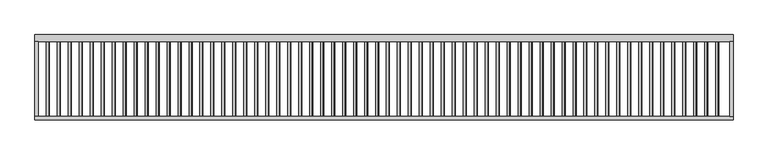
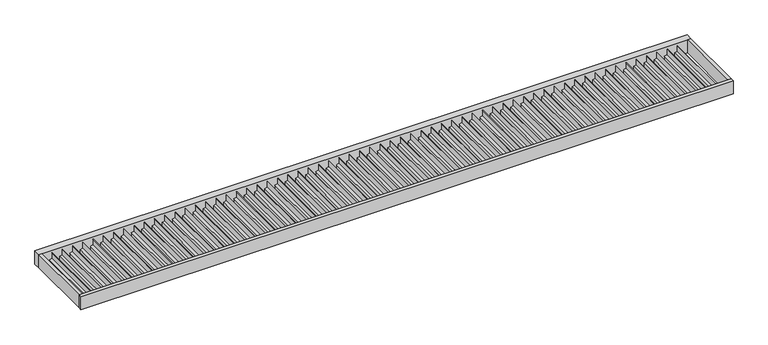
"""IFC4 building model written with IfcOpenShell, lengths in millimetres: proxy geometry, Renson_Amani_Canopy : Renson_Amani_Canopy."""

from ifc_helpers import new_model, si_unit, frame, origin, place, context, project, spatial, polyline, outline, extrude, source, transform, mapped, element, save


def generic_models_a3065196(model_context):
    return source(origin(), model_context, "Body", "SweptSolid", [
        extrude(outline(polyline([(-99.0, 6825.0), (-150.0, 6825.0), (-150.0, 6855.0), (-27.0, 6855.0), (-27.0, 6853.0), (-92.0, 6853.0), (-99.0, 6825.0)])), frame((0.0, -820.0, 0.0), z_axis=(0.0, 1.0, 0.0), x_axis=(0.0, 0.0, 1.0)), (0.0, 0.0, 1.0), 750.0),
        extrude(outline(polyline([(-99.0, 6715.0), (-150.0, 6715.0), (-150.0, 6745.0), (-27.0, 6745.0), (-27.0, 6743.0), (-92.0, 6743.0), (-99.0, 6715.0)])), frame((0.0, -820.0, 0.0), z_axis=(0.0, 1.0, 0.0), x_axis=(0.0, 0.0, 1.0)), (0.0, 0.0, 1.0), 750.0),
        extrude(outline(polyline([(-99.0, 6605.0), (-150.0, 6605.0), (-150.0, 6635.0), (-27.0, 6635.0), (-27.0, 6633.0), (-92.0, 6633.0), (-99.0, 6605.0)])), frame((0.0, -820.0, 0.0), z_axis=(0.0, 1.0, 0.0), x_axis=(0.0, 0.0, 1.0)), (0.0, 0.0, 1.0), 750.0),
        extrude(outline(polyline([(-99.0, 6495.0), (-150.0, 6495.0), (-150.0, 6525.0), (-27.0, 6525.0), (-27.0, 6523.0), (-92.0, 6523.0), (-99.0, 6495.0)])), frame((0.0, -820.0, 0.0), z_axis=(0.0, 1.0, 0.0), x_axis=(0.0, 0.0, 1.0)), (0.0, 0.0, 1.0), 750.0),
        extrude(outline(polyline([(-99.0, 6385.0), (-150.0, 6385.0), (-150.0, 6415.0), (-27.0, 6415.0), (-27.0, 6413.0), (-92.0, 6413.0), (-99.0, 6385.0)])), frame((0.0, -820.0, 0.0), z_axis=(0.0, 1.0, 0.0), x_axis=(0.0, 0.0, 1.0)), (0.0, 0.0, 1.0), 750.0),
        extrude(outline(polyline([(-99.0, 6275.0), (-150.0, 6275.0), (-150.0, 6305.0), (-27.0, 6305.0), (-27.0, 6303.0), (-92.0, 6303.0), (-99.0, 6275.0)])), frame((0.0, -820.0, 0.0), z_axis=(0.0, 1.0, 0.0), x_axis=(0.0, 0.0, 1.0)), (0.0, 0.0, 1.0), 750.0),
        extrude(outline(polyline([(-99.0, 6165.0), (-150.0, 6165.0), (-150.0, 6195.0), (-27.0, 6195.0), (-27.0, 6193.0), (-92.0, 6193.0), (-99.0, 6165.0)])), frame((0.0, -820.0, 0.0), z_axis=(0.0, 1.0, 0.0), x_axis=(0.0, 0.0, 1.0)), (0.0, 0.0, 1.0), 750.0),
        extrude(outline(polyline([(-99.0, 6055.0), (-150.0, 6055.0), (-150.0, 6085.0), (-27.0, 6085.0), (-27.0, 6083.0), (-92.0, 6083.0), (-99.0, 6055.0)])), frame((0.0, -820.0, 0.0), z_axis=(0.0, 1.0, 0.0), x_axis=(0.0, 0.0, 1.0)), (0.0, 0.0, 1.0), 750.0),
        extrude(outline(polyline([(-99.0, 5945.0), (-150.0, 5945.0), (-150.0, 5975.0), (-27.0, 5975.0), (-27.0, 5973.0), (-92.0, 5973.0), (-99.0, 5945.0)])), frame((0.0, -820.0, 0.0), z_axis=(0.0, 1.0, 0.0), x_axis=(0.0, 0.0, 1.0)), (0.0, 0.0, 1.0), 750.0),
        extrude(outline(polyline([(-99.0, 5835.0), (-150.0, 5835.0), (-150.0, 5865.0), (-27.0, 5865.0), (-27.0, 5863.0), (-92.0, 5863.0), (-99.0, 5835.0)])), frame((0.0, -820.0, 0.0), z_axis=(0.0, 1.0, 0.0), x_axis=(0.0, 0.0, 1.0)), (0.0, 0.0, 1.0), 750.0),
        extrude(outline(polyline([(-99.0, 5725.0), (-150.0, 5725.0), (-150.0, 5755.0), (-27.0, 5755.0), (-27.0, 5753.0), (-92.0, 5753.0), (-99.0, 5725.0)])), frame((0.0, -820.0, 0.0), z_axis=(0.0, 1.0, 0.0), x_axis=(0.0, 0.0, 1.0)), (0.0, 0.0, 1.0), 750.0),
        extrude(outline(polyline([(-99.0, 5615.0), (-150.0, 5615.0), (-150.0, 5645.0), (-27.0, 5645.0), (-27.0, 5643.0), (-92.0, 5643.0), (-99.0, 5615.0)])), frame((0.0, -820.0, 0.0), z_axis=(0.0, 1.0, 0.0), x_axis=(0.0, 0.0, 1.0)), (0.0, 0.0, 1.0), 750.0),
        extrude(outline(polyline([(-99.0, 5505.0), (-150.0, 5505.0), (-150.0, 5535.0), (-27.0, 5535.0), (-27.0, 5533.0), (-92.0, 5533.0), (-99.0, 5505.0)])), frame((0.0, -820.0, 0.0), z_axis=(0.0, 1.0, 0.0), x_axis=(0.0, 0.0, 1.0)), (0.0, 0.0, 1.0), 750.0),
        extrude(outline(polyline([(-99.0, 5395.0), (-150.0, 5395.0), (-150.0, 5425.0), (-27.0, 5425.0), (-27.0, 5423.0), (-92.0, 5423.0), (-99.0, 5395.0)])), frame((0.0, -820.0, 0.0), z_axis=(0.0, 1.0, 0.0), x_axis=(0.0, 0.0, 1.0)), (0.0, 0.0, 1.0), 750.0),
        extrude(outline(polyline([(-99.0, 5285.0), (-150.0, 5285.0), (-150.0, 5315.0), (-27.0, 5315.0), (-27.0, 5313.0), (-92.0, 5313.0), (-99.0, 5285.0)])), frame((0.0, -820.0, 0.0), z_axis=(0.0, 1.0, 0.0), x_axis=(0.0, 0.0, 1.0)), (0.0, 0.0, 1.0), 750.0),
        extrude(outline(polyline([(-99.0, 5175.0), (-150.0, 5175.0), (-150.0, 5205.0), (-27.0, 5205.0), (-27.0, 5203.0), (-92.0, 5203.0), (-99.0, 5175.0)])), frame((0.0, -820.0, 0.0), z_axis=(0.0, 1.0, 0.0), x_axis=(0.0, 0.0, 1.0)), (0.0, 0.0, 1.0), 750.0),
        extrude(outline(polyline([(-99.0, 5065.0), (-150.0, 5065.0), (-150.0, 5095.0), (-27.0, 5095.0), (-27.0, 5093.0), (-92.0, 5093.0), (-99.0, 5065.0)])), frame((0.0, -820.0, 0.0), z_axis=(0.0, 1.0, 0.0), x_axis=(0.0, 0.0, 1.0)), (0.0, 0.0, 1.0), 750.0),
        extrude(outline(polyline([(-99.0, 4955.0), (-150.0, 4955.0), (-150.0, 4985.0), (-27.0, 4985.0), (-27.0, 4983.0), (-92.0, 4983.0), (-99.0, 4955.0)])), frame((0.0, -820.0, 0.0), z_axis=(0.0, 1.0, 0.0), x_axis=(0.0, 0.0, 1.0)), (0.0, 0.0, 1.0), 750.0),
        extrude(outline(polyline([(-99.0, 4845.0), (-150.0, 4845.0), (-150.0, 4875.0), (-27.0, 4875.0), (-27.0, 4873.0), (-92.0, 4873.0), (-99.0, 4845.0)])), frame((0.0, -820.0, 0.0), z_axis=(0.0, 1.0, 0.0), x_axis=(0.0, 0.0, 1.0)), (0.0, 0.0, 1.0), 750.0),
        extrude(outline(polyline([(-99.0, 4735.0), (-150.0, 4735.0), (-150.0, 4765.0), (-27.0, 4765.0), (-27.0, 4763.0), (-92.0, 4763.0), (-99.0, 4735.0)])), frame((0.0, -820.0, 0.0), z_axis=(0.0, 1.0, 0.0), x_axis=(0.0, 0.0, 1.0)), (0.0, 0.0, 1.0), 750.0),
        extrude(outline(polyline([(-99.0, 4625.0), (-150.0, 4625.0), (-150.0, 4655.0), (-27.0, 4655.0), (-27.0, 4653.0), (-92.0, 4653.0), (-99.0, 4625.0)])), frame((0.0, -820.0, 0.0), z_axis=(0.0, 1.0, 0.0), x_axis=(0.0, 0.0, 1.0)), (0.0, 0.0, 1.0), 750.0),
        extrude(outline(polyline([(-99.0, 4515.0), (-150.0, 4515.0), (-150.0, 4545.0), (-27.0, 4545.0), (-27.0, 4543.0), (-92.0, 4543.0), (-99.0, 4515.0)])), frame((0.0, -820.0, 0.0), z_axis=(0.0, 1.0, 0.0), x_axis=(0.0, 0.0, 1.0)), (0.0, 0.0, 1.0), 750.0),
        extrude(outline(polyline([(-99.0, 4405.0), (-150.0, 4405.0), (-150.0, 4435.0), (-27.0, 4435.0), (-27.0, 4433.0), (-92.0, 4433.0), (-99.0, 4405.0)])), frame((0.0, -820.0, 0.0), z_axis=(0.0, 1.0, 0.0), x_axis=(0.0, 0.0, 1.0)), (0.0, 0.0, 1.0), 750.0),
        extrude(outline(polyline([(-99.0, 4295.0), (-150.0, 4295.0), (-150.0, 4325.0), (-27.0, 4325.0), (-27.0, 4323.0), (-92.0, 4323.0), (-99.0, 4295.0)])), frame((0.0, -820.0, 0.0), z_axis=(0.0, 1.0, 0.0), x_axis=(0.0, 0.0, 1.0)), (0.0, 0.0, 1.0), 750.0),
        extrude(outline(polyline([(-99.0, 4185.0), (-150.0, 4185.0), (-150.0, 4215.0), (-27.0, 4215.0), (-27.0, 4213.0), (-92.0, 4213.0), (-99.0, 4185.0)])), frame((0.0, -820.0, 0.0), z_axis=(0.0, 1.0, 0.0), x_axis=(0.0, 0.0, 1.0)), (0.0, 0.0, 1.0), 750.0),
        extrude(outline(polyline([(-99.0, 4075.0), (-150.0, 4075.0), (-150.0, 4105.0), (-27.0, 4105.0), (-27.0, 4103.0), (-92.0, 4103.0), (-99.0, 4075.0)])), frame((0.0, -820.0, 0.0), z_axis=(0.0, 1.0, 0.0), x_axis=(0.0, 0.0, 1.0)), (0.0, 0.0, 1.0), 750.0),
        extrude(outline(polyline([(-99.0, 3965.0), (-150.0, 3965.0), (-150.0, 3995.0), (-27.0, 3995.0), (-27.0, 3993.0), (-92.0, 3993.0), (-99.0, 3965.0)])), frame((0.0, -820.0, 0.0), z_axis=(0.0, 1.0, 0.0), x_axis=(0.0, 0.0, 1.0)), (0.0, 0.0, 1.0), 750.0),
        extrude(outline(polyline([(-99.0, 3855.0), (-150.0, 3855.0), (-150.0, 3885.0), (-27.0, 3885.0), (-27.0, 3883.0), (-92.0, 3883.0), (-99.0, 3855.0)])), frame((0.0, -820.0, 0.0), z_axis=(0.0, 1.0, 0.0), x_axis=(0.0, 0.0, 1.0)), (0.0, 0.0, 1.0), 750.0),
        extrude(outline(polyline([(-99.0, 3745.0), (-150.0, 3745.0), (-150.0, 3775.0), (-27.0, 3775.0), (-27.0, 3773.0), (-92.0, 3773.0), (-99.0, 3745.0)])), frame((0.0, -820.0, 0.0), z_axis=(0.0, 1.0, 0.0), x_axis=(0.0, 0.0, 1.0)), (0.0, 0.0, 1.0), 750.0),
        extrude(outline(polyline([(-99.0, 3635.0), (-150.0, 3635.0), (-150.0, 3665.0), (-27.0, 3665.0), (-27.0, 3663.0), (-92.0, 3663.0), (-99.0, 3635.0)])), frame((0.0, -820.0, 0.0), z_axis=(0.0, 1.0, 0.0), x_axis=(0.0, 0.0, 1.0)), (0.0, 0.0, 1.0), 750.0),
        extrude(outline(polyline([(-99.0, 3525.0), (-150.0, 3525.0), (-150.0, 3555.0), (-27.0, 3555.0), (-27.0, 3553.0), (-92.0, 3553.0), (-99.0, 3525.0)])), frame((0.0, -820.0, 0.0), z_axis=(0.0, 1.0, 0.0), x_axis=(0.0, 0.0, 1.0)), (0.0, 0.0, 1.0), 750.0),
        extrude(outline(polyline([(-99.0, 3415.0), (-150.0, 3415.0), (-150.0, 3445.0), (-27.0, 3445.0), (-27.0, 3443.0), (-92.0, 3443.0), (-99.0, 3415.0)])), frame((0.0, -820.0, 0.0), z_axis=(0.0, 1.0, 0.0), x_axis=(0.0, 0.0, 1.0)), (0.0, 0.0, 1.0), 750.0),
        extrude(outline(polyline([(-99.0, 3305.0), (-150.0, 3305.0), (-150.0, 3335.0), (-27.0, 3335.0), (-27.0, 3333.0), (-92.0, 3333.0), (-99.0, 3305.0)])), frame((0.0, -820.0, 0.0), z_axis=(0.0, 1.0, 0.0), x_axis=(0.0, 0.0, 1.0)), (0.0, 0.0, 1.0), 750.0),
        extrude(outline(polyline([(-99.0, 3195.0), (-150.0, 3195.0), (-150.0, 3225.0), (-27.0, 3225.0), (-27.0, 3223.0), (-92.0, 3223.0), (-99.0, 3195.0)])), frame((0.0, -820.0, 0.0), z_axis=(0.0, 1.0, 0.0), x_axis=(0.0, 0.0, 1.0)), (0.0, 0.0, 1.0), 750.0),
        extrude(outline(polyline([(-99.0, 3085.0), (-150.0, 3085.0), (-150.0, 3115.0), (-27.0, 3115.0), (-27.0, 3113.0), (-92.0, 3113.0), (-99.0, 3085.0)])), frame((0.0, -820.0, 0.0), z_axis=(0.0, 1.0, 0.0), x_axis=(0.0, 0.0, 1.0)), (0.0, 0.0, 1.0), 750.0),
        extrude(outline(polyline([(-99.0, 2975.0), (-150.0, 2975.0), (-150.0, 3005.0), (-27.0, 3005.0), (-27.0, 3003.0), (-92.0, 3003.0), (-99.0, 2975.0)])), frame((0.0, -820.0, 0.0), z_axis=(0.0, 1.0, 0.0), x_axis=(0.0, 0.0, 1.0)), (0.0, 0.0, 1.0), 750.0),
        extrude(outline(polyline([(-99.0, 2865.0), (-150.0, 2865.0), (-150.0, 2895.0), (-27.0, 2895.0), (-27.0, 2893.0), (-92.0, 2893.0), (-99.0, 2865.0)])), frame((0.0, -820.0, 0.0), z_axis=(0.0, 1.0, 0.0), x_axis=(0.0, 0.0, 1.0)), (0.0, 0.0, 1.0), 750.0),
        extrude(outline(polyline([(-99.0, 2755.0), (-150.0, 2755.0), (-150.0, 2785.0), (-27.0, 2785.0), (-27.0, 2783.0), (-92.0, 2783.0), (-99.0, 2755.0)])), frame((0.0, -820.0, 0.0), z_axis=(0.0, 1.0, 0.0), x_axis=(0.0, 0.0, 1.0)), (0.0, 0.0, 1.0), 750.0),
        extrude(outline(polyline([(-99.0, 2645.0), (-150.0, 2645.0), (-150.0, 2675.0), (-27.0, 2675.0), (-27.0, 2673.0), (-92.0, 2673.0), (-99.0, 2645.0)])), frame((0.0, -820.0, 0.0), z_axis=(0.0, 1.0, 0.0), x_axis=(0.0, 0.0, 1.0)), (0.0, 0.0, 1.0), 750.0),
        extrude(outline(polyline([(-99.0, 2535.0), (-150.0, 2535.0), (-150.0, 2565.0), (-27.0, 2565.0), (-27.0, 2563.0), (-92.0, 2563.0), (-99.0, 2535.0)])), frame((0.0, -820.0, 0.0), z_axis=(0.0, 1.0, 0.0), x_axis=(0.0, 0.0, 1.0)), (0.0, 0.0, 1.0), 750.0),
        extrude(outline(polyline([(-99.0, 2425.0), (-150.0, 2425.0), (-150.0, 2455.0), (-27.0, 2455.0), (-27.0, 2453.0), (-92.0, 2453.0), (-99.0, 2425.0)])), frame((0.0, -820.0, 0.0), z_axis=(0.0, 1.0, 0.0), x_axis=(0.0, 0.0, 1.0)), (0.0, 0.0, 1.0), 750.0),
        extrude(outline(polyline([(-99.0, 2315.0), (-150.0, 2315.0), (-150.0, 2345.0), (-27.0, 2345.0), (-27.0, 2343.0), (-92.0, 2343.0), (-99.0, 2315.0)])), frame((0.0, -820.0, 0.0), z_axis=(0.0, 1.0, 0.0), x_axis=(0.0, 0.0, 1.0)), (0.0, 0.0, 1.0), 750.0),
        extrude(outline(polyline([(-99.0, 2205.0), (-150.0, 2205.0), (-150.0, 2235.0), (-27.0, 2235.0), (-27.0, 2233.0), (-92.0, 2233.0), (-99.0, 2205.0)])), frame((0.0, -820.0, 0.0), z_axis=(0.0, 1.0, 0.0), x_axis=(0.0, 0.0, 1.0)), (0.0, 0.0, 1.0), 750.0),
        extrude(outline(polyline([(-99.0, 2095.0), (-150.0, 2095.0), (-150.0, 2125.0), (-27.0, 2125.0), (-27.0, 2123.0), (-92.0, 2123.0), (-99.0, 2095.0)])), frame((0.0, -820.0, 0.0), z_axis=(0.0, 1.0, 0.0), x_axis=(0.0, 0.0, 1.0)), (0.0, 0.0, 1.0), 750.0),
        extrude(outline(polyline([(-99.0, 1985.0), (-150.0, 1985.0), (-150.0, 2015.0), (-27.0, 2015.0), (-27.0, 2013.0), (-92.0, 2013.0), (-99.0, 1985.0)])), frame((0.0, -820.0, 0.0), z_axis=(0.0, 1.0, 0.0), x_axis=(0.0, 0.0, 1.0)), (0.0, 0.0, 1.0), 750.0),
        extrude(outline(polyline([(-99.0, 1875.0), (-150.0, 1875.0), (-150.0, 1905.0), (-27.0, 1905.0), (-27.0, 1903.0), (-92.0, 1903.0), (-99.0, 1875.0)])), frame((0.0, -820.0, 0.0), z_axis=(0.0, 1.0, 0.0), x_axis=(0.0, 0.0, 1.0)), (0.0, 0.0, 1.0), 750.0),
        extrude(outline(polyline([(-99.0, 1765.0), (-150.0, 1765.0), (-150.0, 1795.0), (-27.0, 1795.0), (-27.0, 1793.0), (-92.0, 1793.0), (-99.0, 1765.0)])), frame((0.0, -820.0, 0.0), z_axis=(0.0, 1.0, 0.0), x_axis=(0.0, 0.0, 1.0)), (0.0, 0.0, 1.0), 750.0),
        extrude(outline(polyline([(-99.0, 1655.0), (-150.0, 1655.0), (-150.0, 1685.0), (-27.0, 1685.0), (-27.0, 1683.0), (-92.0, 1683.0), (-99.0, 1655.0)])), frame((0.0, -820.0, 0.0), z_axis=(0.0, 1.0, 0.0), x_axis=(0.0, 0.0, 1.0)), (0.0, 0.0, 1.0), 750.0),
        extrude(outline(polyline([(-99.0, 1545.0), (-150.0, 1545.0), (-150.0, 1575.0), (-27.0, 1575.0), (-27.0, 1573.0), (-92.0, 1573.0), (-99.0, 1545.0)])), frame((0.0, -820.0, 0.0), z_axis=(0.0, 1.0, 0.0), x_axis=(0.0, 0.0, 1.0)), (0.0, 0.0, 1.0), 750.0),
        extrude(outline(polyline([(-99.0, 1435.0), (-150.0, 1435.0), (-150.0, 1465.0), (-27.0, 1465.0), (-27.0, 1463.0), (-92.0, 1463.0), (-99.0, 1435.0)])), frame((0.0, -820.0, 0.0), z_axis=(0.0, 1.0, 0.0), x_axis=(0.0, 0.0, 1.0)), (0.0, 0.0, 1.0), 750.0),
        extrude(outline(polyline([(-99.0, 1325.0), (-150.0, 1325.0), (-150.0, 1355.0), (-27.0, 1355.0), (-27.0, 1353.0), (-92.0, 1353.0), (-99.0, 1325.0)])), frame((0.0, -820.0, 0.0), z_axis=(0.0, 1.0, 0.0), x_axis=(0.0, 0.0, 1.0)), (0.0, 0.0, 1.0), 750.0),
        extrude(outline(polyline([(-99.0, 1215.0), (-150.0, 1215.0), (-150.0, 1245.0), (-27.0, 1245.0), (-27.0, 1243.0), (-92.0, 1243.0), (-99.0, 1215.0)])), frame((0.0, -820.0, 0.0), z_axis=(0.0, 1.0, 0.0), x_axis=(0.0, 0.0, 1.0)), (0.0, 0.0, 1.0), 750.0),
        extrude(outline(polyline([(-99.0, 1105.0), (-150.0, 1105.0), (-150.0, 1135.0), (-27.0, 1135.0), (-27.0, 1133.0), (-92.0, 1133.0), (-99.0, 1105.0)])), frame((0.0, -820.0, 0.0), z_axis=(0.0, 1.0, 0.0), x_axis=(0.0, 0.0, 1.0)), (0.0, 0.0, 1.0), 750.0),
        extrude(outline(polyline([(-99.0, 995.0), (-150.0, 995.0), (-150.0, 1025.0), (-27.0, 1025.0), (-27.0, 1023.0), (-92.0, 1023.0), (-99.0, 995.0)])), frame((0.0, -820.0, 0.0), z_axis=(0.0, 1.0, 0.0), x_axis=(0.0, 0.0, 1.0)), (0.0, 0.0, 1.0), 750.0),
        extrude(outline(polyline([(-99.0, 885.0), (-150.0, 885.0), (-150.0, 915.0), (-27.0, 915.0), (-27.0, 913.0), (-92.0, 913.0), (-99.0, 885.0)])), frame((0.0, -820.0, 0.0), z_axis=(0.0, 1.0, 0.0), x_axis=(0.0, 0.0, 1.0)), (0.0, 0.0, 1.0), 750.0),
        extrude(outline(polyline([(-99.0, 775.0), (-150.0, 775.0), (-150.0, 805.0), (-27.0, 805.0), (-27.0, 803.0), (-92.0, 803.0), (-99.0, 775.0)])), frame((0.0, -820.0, 0.0), z_axis=(0.0, 1.0, 0.0), x_axis=(0.0, 0.0, 1.0)), (0.0, 0.0, 1.0), 750.0),
        extrude(outline(polyline([(-99.0, 665.0), (-150.0, 665.0), (-150.0, 695.0), (-27.0, 695.0), (-27.0, 693.0), (-92.0, 693.0), (-99.0, 665.0)])), frame((0.0, -820.0, 0.0), z_axis=(0.0, 1.0, 0.0), x_axis=(0.0, 0.0, 1.0)), (0.0, 0.0, 1.0), 750.0),
        extrude(outline(polyline([(-99.0, 555.0), (-150.0, 555.0), (-150.0, 585.0), (-27.0, 585.0), (-27.0, 583.0), (-92.0, 583.0), (-99.0, 555.0)])), frame((0.0, -820.0, 0.0), z_axis=(0.0, 1.0, 0.0), x_axis=(0.0, 0.0, 1.0)), (0.0, 0.0, 1.0), 750.0),
        extrude(outline(polyline([(-99.0, 445.0), (-150.0, 445.0), (-150.0, 475.0), (-27.0, 475.0), (-27.0, 473.0), (-92.0, 473.0), (-99.0, 445.0)])), frame((0.0, -820.0, 0.0), z_axis=(0.0, 1.0, 0.0), x_axis=(0.0, 0.0, 1.0)), (0.0, 0.0, 1.0), 750.0),
        extrude(outline(polyline([(-99.0, 335.0), (-150.0, 335.0), (-150.0, 365.0), (-27.0, 365.0), (-27.0, 363.0), (-92.0, 363.0), (-99.0, 335.0)])), frame((0.0, -820.0, 0.0), z_axis=(0.0, 1.0, 0.0), x_axis=(0.0, 0.0, 1.0)), (0.0, 0.0, 1.0), 750.0),
        extrude(outline(polyline([(-99.0, 225.0), (-150.0, 225.0), (-150.0, 255.0), (-27.0, 255.0), (-27.0, 253.0), (-92.0, 253.0), (-99.0, 225.0)])), frame((0.0, -820.0, 0.0), z_axis=(0.0, 1.0, 0.0), x_axis=(0.0, 0.0, 1.0)), (0.0, 0.0, 1.0), 750.0),
        extrude(outline(polyline([(-99.0, 115.0), (-150.0, 115.0), (-150.0, 145.0), (-27.0, 145.0), (-27.0, 143.0), (-92.0, 143.0), (-99.0, 115.0)])), frame((0.0, -820.0, 0.0), z_axis=(0.0, 1.0, 0.0), x_axis=(0.0, 0.0, 1.0)), (0.0, 0.0, 1.0), 750.0),
        extrude(outline(polyline([(7000.0, -70.0), (7000.0, -820.0), (6965.0, -820.0), (6965.0, -70.0), (7000.0, -70.0)])), frame((0.0, 0.0, -150.0), z_axis=(0.0, 0.0, 1.0), x_axis=(1.0, 0.0, 0.0)), (0.0, 0.0, 1.0), 150.0),
        extrude(outline(polyline([(7000.0, -855.0), (0.0, -855.0), (0.0, -820.0), (7000.0, -820.0), (7000.0, -855.0)])), frame((0.0, 0.0, -150.0), z_axis=(0.0, 0.0, 1.0), x_axis=(1.0, 0.0, 0.0)), (0.0, 0.0, 1.0), 150.0),
        extrude(outline(polyline([(35.0, -70.0), (35.0, -820.0), (0.0, -820.0), (0.0, -70.0), (35.0, -70.0)])), frame((0.0, 0.0, -150.0), z_axis=(0.0, 0.0, 1.0), x_axis=(1.0, 0.0, 0.0)), (0.0, 0.0, 1.0), 150.0),
        extrude(outline(polyline([(7000.0, -70.0), (0.0, -70.0), (0.0, 0.0), (7000.0, 0.0), (7000.0, -70.0)])), frame((0.0, 0.0, -150.0), z_axis=(0.0, 0.0, 1.0), x_axis=(1.0, 0.0, 0.0)), (0.0, 0.0, 1.0), 150.0),
    ])


if __name__ == "__main__":
    model = new_model("IFC4")
    model_context = context("Model", 3, world=origin())
    ifc_project = project(units=[si_unit("LENGTHUNIT", "METRE", prefix="MILLI")], contexts=[model_context])
    site = spatial("IfcSite", under=ifc_project)
    building = spatial("IfcBuilding", under=site)
    placement = place(None, origin())
    generic_models_shape = generic_models_a3065196(model_context)
    element("IfcBuildingElementProxy", 1, Name="Renson_Amani_Canopy : Renson_Amani_Canopy", ObjectType="Renson_Amani_Canopy : Renson_Amani_Canopy", at=placement, inside=building, context=model_context, shape_type="MappedRepresentation", body=[
        mapped(generic_models_shape, transform((0.0, 0.0, 0.0), x_axis=(1.0, 0.0, 0.0), y_axis=(0.0, 1.0, 0.0), z_axis=(0.0, 0.0, 1.0))),
    ])
    save(model, "model.ifc")
